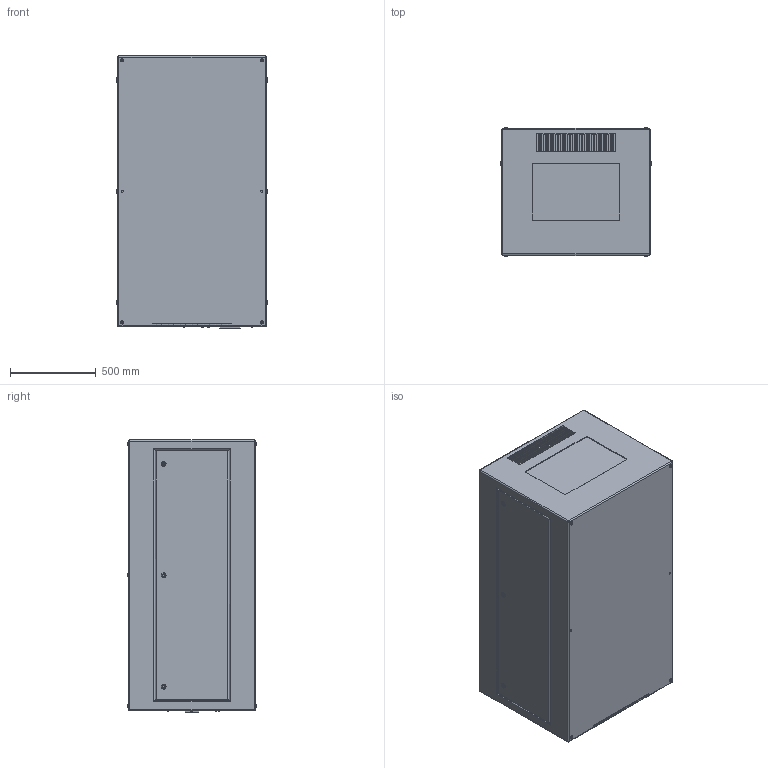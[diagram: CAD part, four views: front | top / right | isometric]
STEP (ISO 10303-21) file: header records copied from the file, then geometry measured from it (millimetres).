
FILE_DESCRIPTION (( 'STEP AP214' ), '1' );
FILE_NAME ('Zen 57.310.L R11 Landscape Hush Enclosure.STEP', '2021-04-23T00:27:17', ( '' ), ( '' ), 'SwSTEP 2.0', 'SolidWorks 2020', '' );
FILE_SCHEMA (( 'AUTOMOTIVE_DESIGN' ));
Length unit declared in the file: inch
Products named in the file (1): Zen 57.310.L R11 Landscape Hush Enclosure
Bounding box: 876.3 x 751.33 x 1582.42 mm (x, y, z)
Volume: 999373991.3 mm3; surface area: 6878315.1 mm2
Topology: 1 solids, 1 shells, 1125 faces, 2838 edges, 1746 vertices
Faces by surface type: plane 515, cylinder 484, sphere 74, torus 52
Entity records: 36313 total; most frequent: DIRECTION 6040, CARTESIAN_POINT 5684, ORIENTED_EDGE 5528, EDGE_CURVE 2764, AXIS2_PLACEMENT_3D 2166, VERTEX_POINT 1746, LINE 1708, VECTOR 1708
